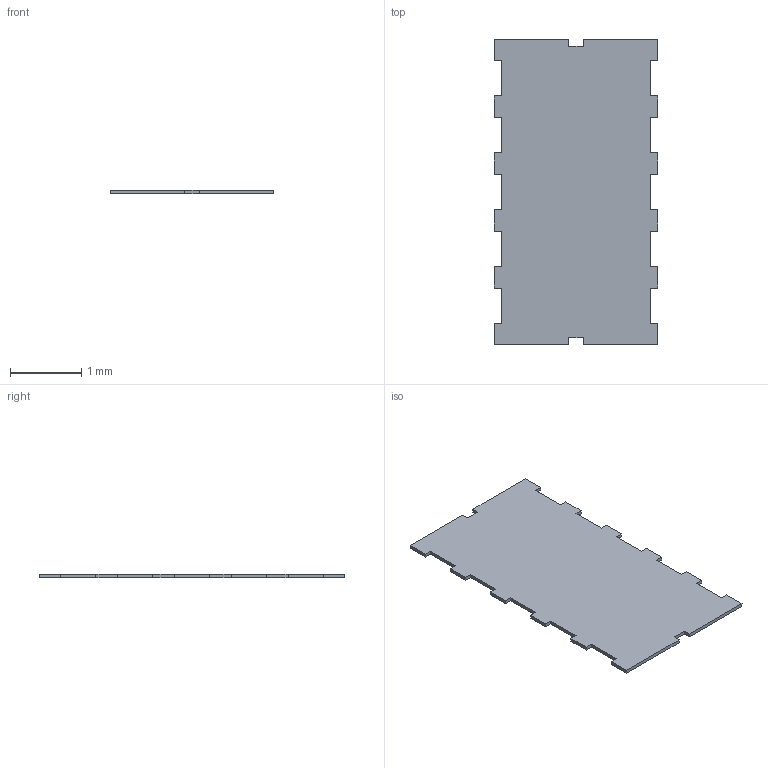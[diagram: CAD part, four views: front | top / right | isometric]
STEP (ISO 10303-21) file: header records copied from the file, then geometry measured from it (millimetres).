
FILE_DESCRIPTION(/* description */ ('STEP AP242 Edition 2','CAx-IF Rec.Pracs.---Representation and Presentation of Product Manufacturing Information (PMI)---4.0---2014-10-13','CAx-IF Rec.Pracs.---3D Tessellated Geometry---0.4---2014-09-14','2;1','CAx-IF Rec.Pracs.---User Defined Attributes---1.5---2016-08-15'),/* implementation_level */ '2;1');
FILE_NAME(/* name */ 'Drone Layout - Surface 372',/* time_stamp */ '2026-10-04T22:22:58Z',/* author */ (''),/* organization */ (''),/* preprocessor_version */ 'ST-DEVELOPER v20',/* originating_system */ 'ONSHAPE BY PTC INC, 1.221',/* authorisation */ ' ');
FILE_SCHEMA (('AP242_MANAGED_MODEL_BASED_3D_ENGINEERING_MIM_LF { 1 0 10303 442 3 1 4 }'));
Length unit declared in the file: metre
Products named in the file (1): pcb:1__Body2
Bounding box: 2.3 x 4.3 x 0.05 mm (x, y, z)
Volume: 0.5 mm3; surface area: 19.5 mm2
Topology: 1 solids, 1 shells, 54 faces, 156 edges, 104 vertices
Faces by surface type: plane 54
Entity records: 1753 total; most frequent: CARTESIAN_POINT 315, ORIENTED_EDGE 312, DIRECTION 266, EDGE_CURVE 156, LINE 156, VECTOR 156, VERTEX_POINT 104, AXIS2_PLACEMENT_3D 55
